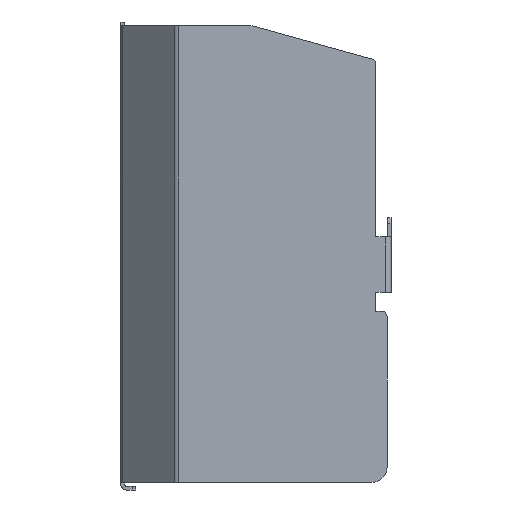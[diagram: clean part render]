
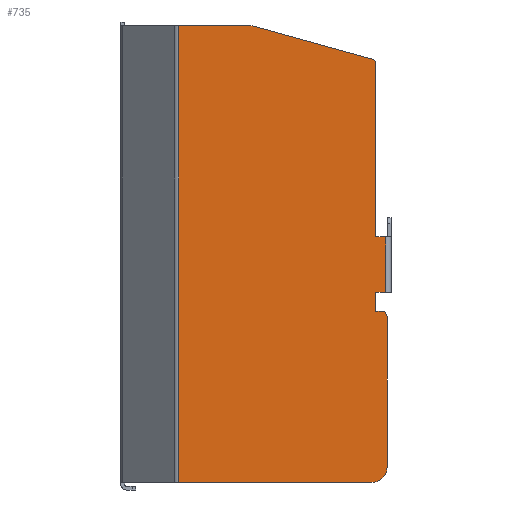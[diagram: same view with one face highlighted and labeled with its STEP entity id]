
A CAD part, left-side view. The second image highlights one B-rep face of the part: STEP entity #735.
In plain terms, the highlighted planar face has unit normal (-1, 0, 0).
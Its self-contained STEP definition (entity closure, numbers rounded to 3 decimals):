
#533 = VERTEX_POINT ( 'NONE', #1941 ) ;
#568 = VERTEX_POINT ( 'NONE', #2016 ) ;
#570 = EDGE_CURVE ( 'NONE', #568, #571, #2015, .T. ) ;
#571 = VERTEX_POINT ( 'NONE', #2011 ) ;
#727 = ORIENTED_EDGE ( 'NONE', *, *, #728, .T. ) ;
#728 = EDGE_CURVE ( 'NONE', #739, #740, #2303, .T. ) ;
#729 = ORIENTED_EDGE ( 'NONE', *, *, #750, .T. ) ;
#735 = ADVANCED_FACE ( 'NONE', ( #2289 ), #2288, .F. ) ;
#736 = VERTEX_POINT ( 'NONE', #2344 ) ;
#737 = ORIENTED_EDGE ( 'NONE', *, *, #738, .T. ) ;
#738 = EDGE_CURVE ( 'NONE', #736, #739, #2343, .T. ) ;
#739 = VERTEX_POINT ( 'NONE', #2339 ) ;
#740 = VERTEX_POINT ( 'NONE', #2338 ) ;
#742 = ORIENTED_EDGE ( 'NONE', *, *, #743, .T. ) ;
#743 = EDGE_CURVE ( 'NONE', #744, #745, #2332, .T. ) ;
#744 = VERTEX_POINT ( 'NONE', #2328 ) ;
#745 = VERTEX_POINT ( 'NONE', #2327 ) ;
#746 = ORIENTED_EDGE ( 'NONE', *, *, #754, .T. ) ;
#749 = EDGE_LOOP ( 'NONE', ( #742, #746, #756, #737, #727, #729, #752, #1039, #1041, #1046, #1035, #1036, #1044, #1031 ) ) ;
#750 = EDGE_CURVE ( 'NONE', #740, #751, #2325, .T. ) ;
#751 = VERTEX_POINT ( 'NONE', #2321 ) ;
#752 = ORIENTED_EDGE ( 'NONE', *, *, #753, .T. ) ;
#753 = EDGE_CURVE ( 'NONE', #751, #533, #2320, .T. ) ;
#754 = EDGE_CURVE ( 'NONE', #745, #755, #2375, .T. ) ;
#755 = VERTEX_POINT ( 'NONE', #2370 ) ;
#756 = ORIENTED_EDGE ( 'NONE', *, *, #757, .T. ) ;
#757 = EDGE_CURVE ( 'NONE', #755, #736, #2369, .T. ) ;
#1031 = ORIENTED_EDGE ( 'NONE', *, *, #1032, .T. ) ;
#1032 = EDGE_CURVE ( 'NONE', #1045, #744, #2815, .T. ) ;
#1034 = EDGE_CURVE ( 'NONE', #1038, #1042, #2866, .T. ) ;
#1035 = ORIENTED_EDGE ( 'NONE', *, *, #570, .F. ) ;
#1036 = ORIENTED_EDGE ( 'NONE', *, *, #1043, .T. ) ;
#1037 = VERTEX_POINT ( 'NONE', #2862 ) ;
#1038 = VERTEX_POINT ( 'NONE', #2861 ) ;
#1039 = ORIENTED_EDGE ( 'NONE', *, *, #1040, .T. ) ;
#1040 = EDGE_CURVE ( 'NONE', #533, #1038, #2860, .T. ) ;
#1041 = ORIENTED_EDGE ( 'NONE', *, *, #1034, .T. ) ;
#1042 = VERTEX_POINT ( 'NONE', #2856 ) ;
#1043 = EDGE_CURVE ( 'NONE', #568, #1037, #2855, .T. ) ;
#1044 = ORIENTED_EDGE ( 'NONE', *, *, #1048, .T. ) ;
#1045 = VERTEX_POINT ( 'NONE', #2851 ) ;
#1046 = ORIENTED_EDGE ( 'NONE', *, *, #1047, .T. ) ;
#1047 = EDGE_CURVE ( 'NONE', #1042, #571, #2850, .T. ) ;
#1048 = EDGE_CURVE ( 'NONE', #1037, #1045, #2909, .T. ) ;
#1941 = CARTESIAN_POINT ( 'NONE',  ( -136.7, -62.9, 129. ) ) ;
#2011 = CARTESIAN_POINT ( 'NONE',  ( -136.7, 2.1, 240. ) ) ;
#2012 = DIRECTION ( 'NONE',  ( 0., -1., 0. ) ) ;
#2013 = VECTOR ( 'NONE', #2012, 1000. ) ;
#2014 = CARTESIAN_POINT ( 'NONE',  ( -136.7, 40.686, 240. ) ) ;
#2015 = LINE ( 'NONE', #2014, #2013 ) ;
#2016 = CARTESIAN_POINT ( 'NONE',  ( -136.7, 40.686, 240. ) ) ;
#2285 = DIRECTION ( 'NONE',  ( 1., 0., 0. ) ) ;
#2286 = CARTESIAN_POINT ( 'NONE',  ( -136.7, 40.686, 240. ) ) ;
#2287 = AXIS2_PLACEMENT_3D ( 'NONE', #2286, #2285, #2345 ) ;
#2288 = PLANE ( 'NONE',  #2287 ) ;
#2289 = FACE_OUTER_BOUND ( 'NONE', #749, .T. ) ;
#2300 = DIRECTION ( 'NONE',  ( 0., -1., 0. ) ) ;
#2301 = VECTOR ( 'NONE', #2300, 1000. ) ;
#2302 = CARTESIAN_POINT ( 'NONE',  ( -136.7, 46.352, 100. ) ) ;
#2303 = LINE ( 'NONE', #2302, #2301 ) ;
#2317 = DIRECTION ( 'NONE',  ( 0., 1., 0. ) ) ;
#2318 = VECTOR ( 'NONE', #2317, 1000. ) ;
#2319 = CARTESIAN_POINT ( 'NONE',  ( -136.7, -62.9, 129. ) ) ;
#2320 = LINE ( 'NONE', #2319, #2318 ) ;
#2321 = CARTESIAN_POINT ( 'NONE',  ( -136.7, -68.1, 129. ) ) ;
#2322 = DIRECTION ( 'NONE',  ( 0., 0., 1. ) ) ;
#2323 = VECTOR ( 'NONE', #2322, 1000. ) ;
#2324 = CARTESIAN_POINT ( 'NONE',  ( -136.7, -68.1, 240. ) ) ;
#2325 = LINE ( 'NONE', #2324, #2323 ) ;
#2327 = CARTESIAN_POINT ( 'NONE',  ( -136.7, -68.9, 87. ) ) ;
#2328 = CARTESIAN_POINT ( 'NONE',  ( -136.7, -68.9, 8. ) ) ;
#2329 = DIRECTION ( 'NONE',  ( 0., 0., 1. ) ) ;
#2330 = VECTOR ( 'NONE', #2329, 1000. ) ;
#2331 = CARTESIAN_POINT ( 'NONE',  ( -136.7, -68.9, 0. ) ) ;
#2332 = LINE ( 'NONE', #2331, #2330 ) ;
#2338 = CARTESIAN_POINT ( 'NONE',  ( -136.7, -68.1, 100. ) ) ;
#2339 = CARTESIAN_POINT ( 'NONE',  ( -136.7, -62.9, 100. ) ) ;
#2340 = DIRECTION ( 'NONE',  ( 0., 0., 1. ) ) ;
#2341 = VECTOR ( 'NONE', #2340, 1000. ) ;
#2342 = CARTESIAN_POINT ( 'NONE',  ( -136.7, -62.9, 0. ) ) ;
#2343 = LINE ( 'NONE', #2342, #2341 ) ;
#2344 = CARTESIAN_POINT ( 'NONE',  ( -136.7, -62.9, 90. ) ) ;
#2345 = DIRECTION ( 'NONE',  ( 0., 1., 0. ) ) ;
#2366 = DIRECTION ( 'NONE',  ( 0., 1., 0. ) ) ;
#2367 = VECTOR ( 'NONE', #2366, 1000. ) ;
#2368 = CARTESIAN_POINT ( 'NONE',  ( -136.7, -68.9, 90. ) ) ;
#2369 = LINE ( 'NONE', #2368, #2367 ) ;
#2370 = CARTESIAN_POINT ( 'NONE',  ( -136.7, -65.9, 90. ) ) ;
#2371 = DIRECTION ( 'NONE',  ( 0., 1., 0. ) ) ;
#2372 = DIRECTION ( 'NONE',  ( -1., 0., 0. ) ) ;
#2373 = CARTESIAN_POINT ( 'NONE',  ( -136.7, -65.9, 87. ) ) ;
#2374 = AXIS2_PLACEMENT_3D ( 'NONE', #2373, #2372, #2371 ) ;
#2375 = CIRCLE ( 'NONE', #2374, 3. ) ;
#2814 = CARTESIAN_POINT ( 'NONE',  ( -136.7, -60.9, 8. ) ) ;
#2815 = CIRCLE ( 'NONE', #2876, 8. ) ;
#2847 = DIRECTION ( 'NONE',  ( 0., 0.964, 0.267 ) ) ;
#2848 = VECTOR ( 'NONE', #2847, 1000. ) ;
#2849 = CARTESIAN_POINT ( 'NONE',  ( -136.7, -62.9, 222. ) ) ;
#2850 = LINE ( 'NONE', #2849, #2848 ) ;
#2851 = CARTESIAN_POINT ( 'NONE',  ( -136.7, -60.9, 0. ) ) ;
#2852 = DIRECTION ( 'NONE',  ( 0., 0., -1. ) ) ;
#2853 = VECTOR ( 'NONE', #2852, 1000. ) ;
#2854 = CARTESIAN_POINT ( 'NONE',  ( -136.7, 40.686, 240. ) ) ;
#2855 = LINE ( 'NONE', #2854, #2853 ) ;
#2856 = CARTESIAN_POINT ( 'NONE',  ( -136.7, -61.434, 222.406 ) ) ;
#2857 = DIRECTION ( 'NONE',  ( 0., 0., 1. ) ) ;
#2858 = VECTOR ( 'NONE', #2857, 1000. ) ;
#2859 = CARTESIAN_POINT ( 'NONE',  ( -136.7, -62.9, 139. ) ) ;
#2860 = LINE ( 'NONE', #2859, #2858 ) ;
#2861 = CARTESIAN_POINT ( 'NONE',  ( -136.7, -62.9, 220.479 ) ) ;
#2862 = CARTESIAN_POINT ( 'NONE',  ( -136.7, 40.686, 0. ) ) ;
#2863 = DIRECTION ( 'NONE',  ( 0., 1., 0. ) ) ;
#2864 = DIRECTION ( 'NONE',  ( -1., 0., 0. ) ) ;
#2865 = AXIS2_PLACEMENT_3D ( 'NONE', #2870, #2864, #2863 ) ;
#2866 = CIRCLE ( 'NONE', #2865, 2. ) ;
#2870 = CARTESIAN_POINT ( 'NONE',  ( -136.7, -60.9, 220.479 ) ) ;
#2874 = DIRECTION ( 'NONE',  ( 0., 1., 0. ) ) ;
#2875 = DIRECTION ( 'NONE',  ( -1., 0., 0. ) ) ;
#2876 = AXIS2_PLACEMENT_3D ( 'NONE', #2814, #2875, #2874 ) ;
#2906 = DIRECTION ( 'NONE',  ( 0., -1., 0. ) ) ;
#2907 = VECTOR ( 'NONE', #2906, 1000. ) ;
#2908 = CARTESIAN_POINT ( 'NONE',  ( -136.7, 40.686, 0. ) ) ;
#2909 = LINE ( 'NONE', #2908, #2907 ) ;
